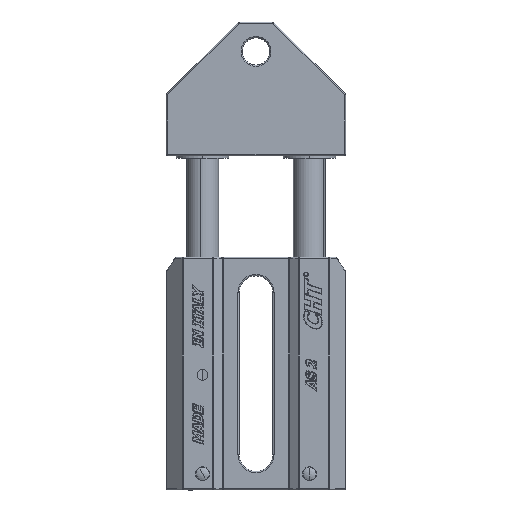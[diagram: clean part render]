
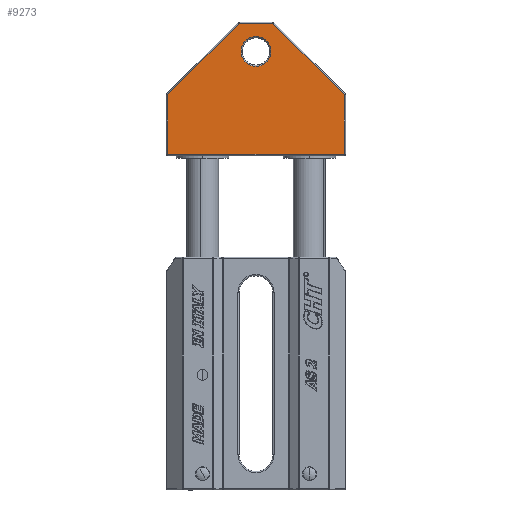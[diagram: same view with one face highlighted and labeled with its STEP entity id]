
A CAD part, top view. The second image highlights one B-rep face of the part: STEP entity #9273.
In plain terms, the highlighted planar face has unit normal (0, 0, 1).
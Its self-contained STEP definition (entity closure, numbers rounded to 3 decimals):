
#308 = CARTESIAN_POINT ( 'NONE',  ( -33., 0.5, 12.5 ) ) ;
#415 = DIRECTION ( 'NONE',  ( -0.707, -0.707, 0. ) ) ;
#567 = DIRECTION ( 'NONE',  ( 0., 1., 0. ) ) ;
#720 = AXIS2_PLACEMENT_3D ( 'NONE', #20793, #24375, #3653 ) ;
#1295 = ORIENTED_EDGE ( 'NONE', *, *, #5737, .T. ) ;
#2158 = DIRECTION ( 'NONE',  ( 0., 0., 1. ) ) ;
#2278 = ORIENTED_EDGE ( 'NONE', *, *, #3088, .T. ) ;
#2563 = VERTEX_POINT ( 'NONE', #15959 ) ;
#2664 = CARTESIAN_POINT ( 'NONE',  ( -6.5, 49.5, 12.5 ) ) ;
#2984 = FACE_OUTER_BOUND ( 'NONE', #12508, .T. ) ;
#3067 = CARTESIAN_POINT ( 'NONE',  ( -6.293, 49.5, 12.5 ) ) ;
#3088 = EDGE_CURVE ( 'NONE', #20854, #10301, #6110, .T. ) ;
#3178 = DIRECTION ( 'NONE',  ( 1., 0., 0. ) ) ;
#3260 = LINE ( 'NONE', #13986, #13926 ) ;
#3318 = AXIS2_PLACEMENT_3D ( 'NONE', #6691, #23968, #10601 ) ;
#3618 = CARTESIAN_POINT ( 'NONE',  ( 33., 22.793, 12.5 ) ) ;
#3653 = DIRECTION ( 'NONE',  ( 1., 0., 0. ) ) ;
#4502 = EDGE_CURVE ( 'NONE', #2563, #18319, #8479, .T. ) ;
#4764 = FACE_BOUND ( 'NONE', #18391, .T. ) ;
#5091 = VERTEX_POINT ( 'NONE', #19322 ) ;
#5737 = EDGE_CURVE ( 'NONE', #10301, #20854, #12893, .T. ) ;
#6110 = CIRCLE ( 'NONE', #3318, 5.6 ) ;
#6268 = VECTOR ( 'NONE', #415, 1000. ) ;
#6423 = VERTEX_POINT ( 'NONE', #11014 ) ;
#6691 = CARTESIAN_POINT ( 'NONE',  ( 0., 39., 12.5 ) ) ;
#7184 = ORIENTED_EDGE ( 'NONE', *, *, #17680, .T. ) ;
#7189 = VERTEX_POINT ( 'NONE', #3618 ) ;
#7520 = CARTESIAN_POINT ( 'NONE',  ( 5.6, 39., 12.5 ) ) ;
#8071 = EDGE_CURVE ( 'NONE', #18319, #5091, #11329, .T. ) ;
#8479 = LINE ( 'NONE', #2664, #15289 ) ;
#8529 = VECTOR ( 'NONE', #3178, 1000. ) ;
#8973 = ORIENTED_EDGE ( 'NONE', *, *, #8071, .T. ) ;
#9273 = ADVANCED_FACE ( 'NONE', ( #2984, #4764 ), #9862, .T. ) ;
#9479 = EDGE_CURVE ( 'NONE', #6423, #7189, #10084, .T. ) ;
#9862 = PLANE ( 'NONE',  #12308 ) ;
#10084 = LINE ( 'NONE', #15899, #16597 ) ;
#10301 = VERTEX_POINT ( 'NONE', #19920 ) ;
#10601 = DIRECTION ( 'NONE',  ( 1., 0., 0. ) ) ;
#11014 = CARTESIAN_POINT ( 'NONE',  ( 33., 0.5, 12.5 ) ) ;
#11329 = LINE ( 'NONE', #19234, #6268 ) ;
#11395 = ORIENTED_EDGE ( 'NONE', *, *, #9479, .T. ) ;
#12308 = AXIS2_PLACEMENT_3D ( 'NONE', #15245, #2158, #15401 ) ;
#12508 = EDGE_LOOP ( 'NONE', ( #16271, #7184, #11395, #14595, #15863, #8973 ) ) ;
#12893 = CIRCLE ( 'NONE', #720, 5.6 ) ;
#12990 = VERTEX_POINT ( 'NONE', #308 ) ;
#13926 = VECTOR ( 'NONE', #15894, 1000. ) ;
#13986 = CARTESIAN_POINT ( 'NONE',  ( 6.146, 49.646, 12.5 ) ) ;
#14513 = EDGE_CURVE ( 'NONE', #7189, #2563, #3260, .T. ) ;
#14595 = ORIENTED_EDGE ( 'NONE', *, *, #14513, .T. ) ;
#15245 = CARTESIAN_POINT ( 'NONE',  ( 0., 38., 12.5 ) ) ;
#15289 = VECTOR ( 'NONE', #15917, 1000. ) ;
#15401 = DIRECTION ( 'NONE',  ( 1., 0., 0. ) ) ;
#15863 = ORIENTED_EDGE ( 'NONE', *, *, #4502, .T. ) ;
#15894 = DIRECTION ( 'NONE',  ( -0.707, 0.707, 0. ) ) ;
#15899 = CARTESIAN_POINT ( 'NONE',  ( 33., 38., 12.5 ) ) ;
#15917 = DIRECTION ( 'NONE',  ( -1., 0., 0. ) ) ;
#15959 = CARTESIAN_POINT ( 'NONE',  ( 6.293, 49.5, 12.5 ) ) ;
#16271 = ORIENTED_EDGE ( 'NONE', *, *, #23351, .T. ) ;
#16597 = VECTOR ( 'NONE', #567, 1000. ) ;
#17680 = EDGE_CURVE ( 'NONE', #12990, #6423, #21251, .T. ) ;
#18236 = VECTOR ( 'NONE', #22380, 1000. ) ;
#18319 = VERTEX_POINT ( 'NONE', #3067 ) ;
#18391 = EDGE_LOOP ( 'NONE', ( #2278, #1295 ) ) ;
#19234 = CARTESIAN_POINT ( 'NONE',  ( -33.146, 22.646, 12.5 ) ) ;
#19322 = CARTESIAN_POINT ( 'NONE',  ( -33., 22.793, 12.5 ) ) ;
#19920 = CARTESIAN_POINT ( 'NONE',  ( -5.6, 39., 12.5 ) ) ;
#20793 = CARTESIAN_POINT ( 'NONE',  ( 0., 39., 12.5 ) ) ;
#20854 = VERTEX_POINT ( 'NONE', #7520 ) ;
#21251 = LINE ( 'NONE', #22314, #8529 ) ;
#22314 = CARTESIAN_POINT ( 'NONE',  ( 33.5, 0.5, 12.5 ) ) ;
#22380 = DIRECTION ( 'NONE',  ( 0., -1., 0. ) ) ;
#23351 = EDGE_CURVE ( 'NONE', #5091, #12990, #23605, .T. ) ;
#23605 = LINE ( 'NONE', #24363, #18236 ) ;
#23968 = DIRECTION ( 'NONE',  ( 0., 0., -1. ) ) ;
#24363 = CARTESIAN_POINT ( 'NONE',  ( -33., 38., 12.5 ) ) ;
#24375 = DIRECTION ( 'NONE',  ( 0., 0., -1. ) ) ;
